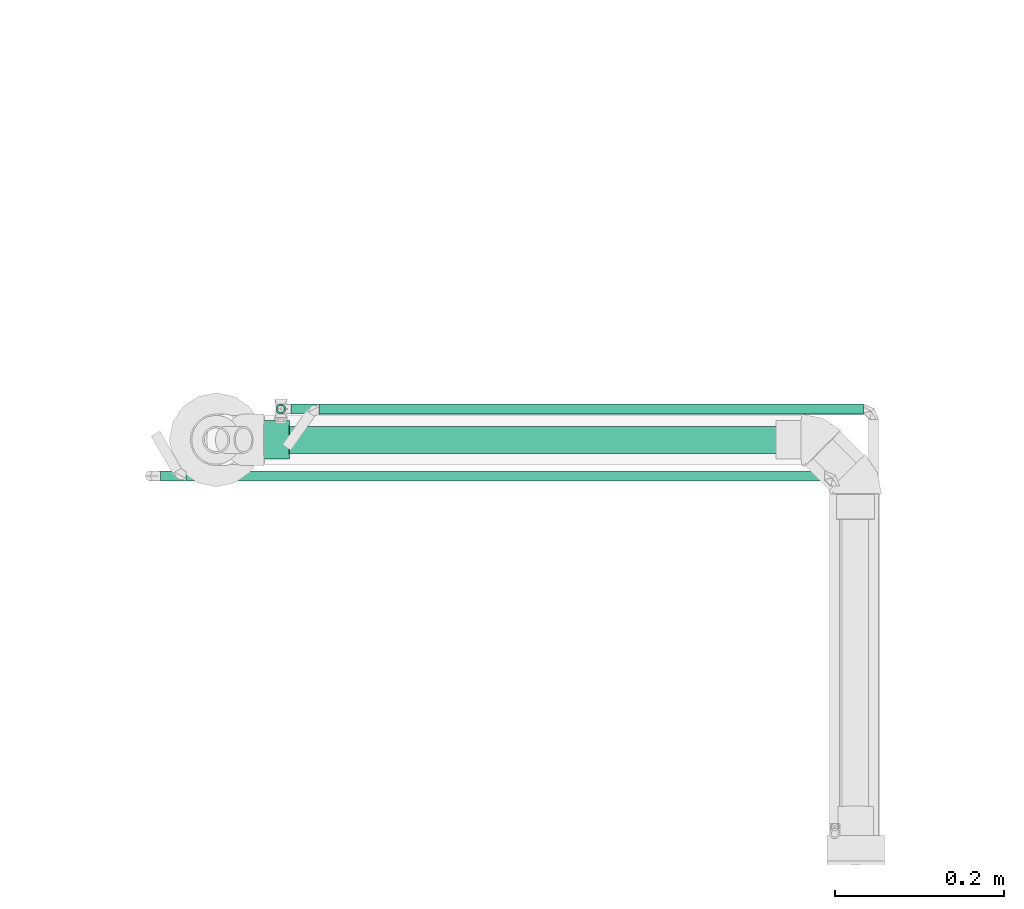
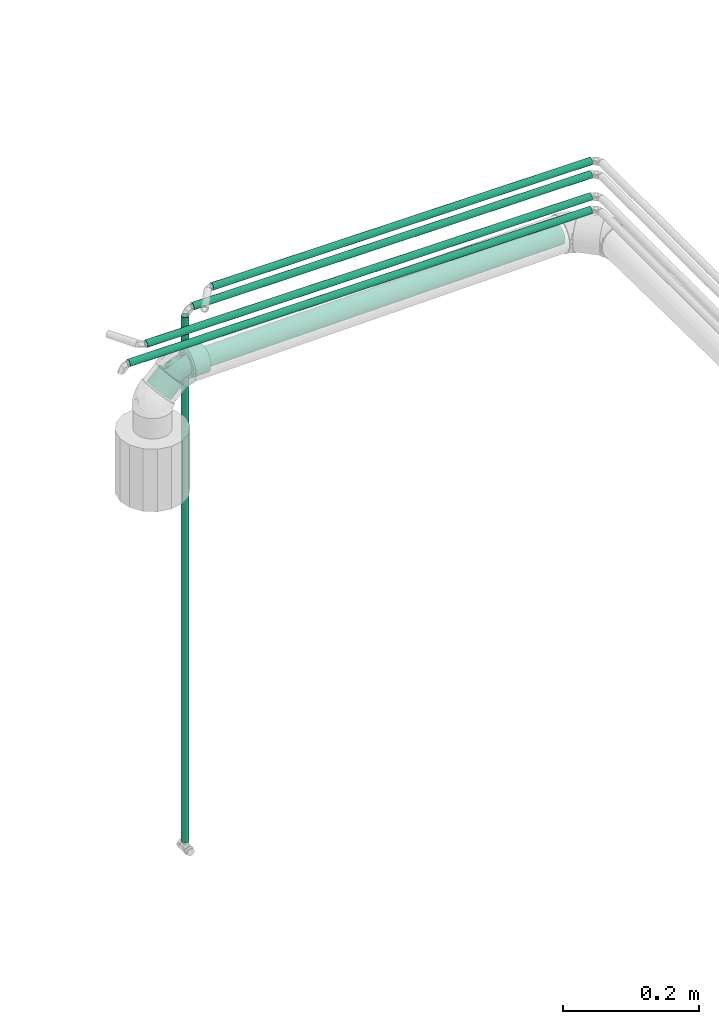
# One storey, part 49 of 108: 6 flow segments, 1 flow fitting.
"""IFC2X3 building model written with IfcOpenShell, lengths in millimetres."""

from ifc_helpers import new_model, entity, si_unit, converted_unit, derived_unit, direction, frame, origin_with_axes, origin_2d_with_axis, place, context, subcontext, project, spatial, hollow_circle, extrude, open_shell, surface_model, source, transform, mapped, type_object, element, save


model = new_model("IFC2X3")

# Units and contexts
model_context = context("Model", 3, precision=0.01, world=frame((0.0, 4.29681676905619e-09, 0.0)), true_north=direction((4.01073788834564e-13, 1.0)))
plan_context = context("Plan", 3, precision=0.01, world=frame((0.0, 4.29681676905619e-09, 0.0)), true_north=direction((4.01073788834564e-13, 1.0)))
body_context = subcontext(model_context, "Body", "Model", "MODEL_VIEW")
ifc_project = project(units=[converted_unit("PLANEANGLEUNIT", "DEGREE", entity("IfcPositiveLengthMeasure", 0.0174532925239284), si_unit("PLANEANGLEUNIT", "RADIAN"), dimensions=[0, 0, 0, 0, 0, 0, 0]), si_unit("AREAUNIT", "SQUARE_METRE"), si_unit("LENGTHUNIT", "METRE", prefix="MILLI"), si_unit("MASSUNIT", "GRAM", prefix="KILO"), si_unit("POWERUNIT", "WATT"), si_unit("PRESSUREUNIT", "PASCAL", prefix="KILO"), si_unit("FORCEUNIT", "NEWTON", prefix="KILO"), si_unit("ELECTRICVOLTAGEUNIT", "VOLT"), si_unit("ELECTRICCURRENTUNIT", "AMPERE"), si_unit("THERMODYNAMICTEMPERATUREUNIT", "DEGREE_CELSIUS"), si_unit("TIMEUNIT", "SECOND"), si_unit("VOLUMEUNIT", "CUBIC_METRE"), derived_unit("LINEARVELOCITYUNIT", [(si_unit("LENGTHUNIT", "METRE"), 1), (si_unit("TIMEUNIT", "SECOND"), -1)]), derived_unit("VOLUMETRICFLOWRATEUNIT", [(si_unit("VOLUMEUNIT", "CUBIC_METRE"), 1), (si_unit("TIMEUNIT", "SECOND"), -1)]), derived_unit("THERMALTRANSMITTANCEUNIT", [(si_unit("POWERUNIT", "WATT"), 1), (si_unit("THERMODYNAMICTEMPERATUREUNIT", "KELVIN"), -1), (si_unit("AREAUNIT", "SQUARE_METRE"), -1)]), derived_unit("SOUNDPRESSUREUNIT", [(si_unit("PRESSUREUNIT", "PASCAL"), 1)])], contexts=[model_context, plan_context])

# Site, building, storey
site_placement = place(None, frame((0.0, -4.29681676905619e-09, 0.0), z_axis=(0.0, 0.0, 1.0), x_axis=(1.0, 0.0, 0.0)))
site = spatial("IfcSite", under=ifc_project, at=site_placement, CompositionType="ELEMENT")
building_placement = place(site_placement, frame((0.0, 4.29681676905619e-09, 0.0), z_axis=(0.0, 0.0, 1.0), x_axis=(1.0, 0.0, 0.0)))
building = spatial("IfcBuilding", under=site, at=building_placement, Name="mc-building", CompositionType="ELEMENT")
storey_placement = place(building_placement, frame((0.0, 0.0, 210200.0), z_axis=(0.0, 0.0, 1.0), x_axis=(1.0, 0.0, 0.0)))
storey = spatial("IfcBuildingStorey", under=building, at=storey_placement, Name="Nivå F - 0,7 m", CompositionType="ELEMENT", Elevation=210200.0)

# Flow fitting
pipe_fitting_type = type_object("IfcPipeFittingType", Name="magi_sewer_bend_001", PredefinedType="BEND")
shared_shape_1 = source(origin_with_axes(), body_context, "Body", "SurfaceModel", [
    surface_model("IfcShellBasedSurfaceModel", [(-44.23786, -11.3, -19.57217), (-44.23786, 5.84931, -21.82992), (-44.23786, -5.84931, -21.82992), (-44.23786, -15.98061, -15.98061), (-44.23786, 22.6, 0.0), (-44.23786, -21.82992, -5.84931), (-44.23786, -19.57217, -11.3), (-44.23786, 21.82992, -5.84931), (-44.23786, 0.0, -22.6), (-44.23786, 11.3, -19.57217), (-44.23786, 15.98061, -15.98061), (-44.23786, 19.57217, -11.3), (-44.23786, -21.82992, 5.84931), (-44.23786, -22.6, 0.0), (-44.23786, -19.57217, 11.3), (-44.23786, -15.98061, 15.98061), (-44.23786, 0.0, 22.6), (-44.23786, -11.3, 19.57217), (-44.23786, -5.84931, 21.82992), (-44.23786, 15.98061, 15.98061), (-44.23786, 19.57217, 11.3), (-44.23786, 21.82992, 5.84931), (-44.23786, 5.84931, 21.82992), (-44.23786, 11.3, 19.57217), (-14.23786, 0.0, 22.6), (-14.23786, -5.84931, 21.82992), (-14.23786, -11.3, 19.57217), (-14.23786, -15.98061, 15.98061), (-14.23786, -19.57217, 11.3), (-14.23786, -21.82992, 5.84931), (-14.23786, 22.6, 0.0), (-14.23786, 21.82992, -5.84931), (-14.23786, 5.84931, 21.82992), (-14.23786, 15.98061, 15.98061), (-14.23786, 11.3, 19.57217), (-14.23786, 19.57217, 11.3), (-14.23786, 21.82992, 5.84931), (-14.23786, -11.3, -19.57217), (-14.23786, -22.6, 0.0), (-14.23786, -21.82992, -5.84931), (-14.23786, -15.98061, -15.98061), (-14.23786, -19.57217, -11.3), (-14.23786, -5.84931, -21.82992), (-14.23786, 15.98061, -15.98061), (-14.23786, 19.57217, -11.3), (-14.23786, 11.3, -19.57217), (-14.23786, 5.84931, -21.82992), (-14.23786, 0.0, -22.6), (16.62111, 46.44645, 5.84931), (18.19076, 44.82359, 11.3), (20.6877, 42.24201, 15.98061), (20.6877, 42.24201, -15.98061), (27.73124, 34.95971, 21.82992), (31.79783, 30.75527, 22.6), (23.94178, 38.87762, 19.57217), (16.08574, 46.99997, 0.0), (18.19076, 44.82359, -11.3), (16.62111, 46.44645, -5.84931), (27.73124, 34.95971, -21.82992), (23.94178, 38.87762, -19.57217), (35.86441, 26.55083, 21.82992), (39.65387, 22.63292, 19.57217), (42.90795, 19.26853, 15.98061), (42.90795, 19.26853, -15.98061), (45.40489, 16.68695, 11.3), (46.97454, 15.0641, 5.84931), (47.50991, 14.51057, 0.0), (35.86441, 26.55083, -21.82992), (39.65387, 22.63292, -19.57217), (31.79783, 30.75527, -22.6), (46.97454, 15.0641, -5.84931), (45.40489, 16.68695, -11.3), (25.94615, -6.34618, 0.0), (25.41077, -5.79266, 5.84931), (23.84113, -4.1698, 11.3), (14.30065, 5.69408, 21.82992), (18.09011, 1.77617, 19.57217), (21.34419, -1.58822, 15.98061), (21.34419, -1.58822, -15.98061), (25.41077, -5.79266, -5.84931), (23.84113, -4.1698, -11.3), (18.09011, 1.77617, -19.57217), (10.23406, 9.89852, -22.6), (14.30065, 5.69408, -21.82992), (-0.87606, 21.38526, -15.98061), (-3.373, 23.96684, -11.3), (6.16747, 14.10296, 21.82992), (-0.87606, 21.38526, 15.98061), (2.37802, 18.02087, 19.57217), (-3.373, 23.96684, 11.3), (-4.94265, 25.58969, 5.84931), (6.16747, 14.10296, -21.82992), (2.37802, 18.02087, -19.57217), (-5.47803, 26.14322, 0.0), (-4.94265, 25.58969, -5.84931), (10.23406, 9.89852, 22.6), (-14.23786, 0.0, -17.6), (-14.23786, -12.44508, -12.44508), (-14.23786, 4.55522, -17.00029), (-14.23786, 8.8, -15.24205), (-14.23786, 15.24205, -8.8), (-14.23786, 12.44508, -12.44508), (-14.23786, -17.00029, 4.55522), (-14.23786, -8.8, -15.24205), (-14.23786, -4.55522, -17.00029), (-14.23786, -15.24205, -8.8), (-14.23786, -17.00029, -4.55522), (-14.23786, -17.6, 0.0), (-14.23786, 17.00029, -4.55522), (-14.23786, -8.8, 15.24205), (-14.23786, 17.00029, 4.55522), (-14.23786, 17.6, 0.0), (-14.23786, 12.44508, 12.44508), (-14.23786, 15.24205, 8.8), (-14.23786, 4.55522, 17.00029), (-14.23786, 8.8, 15.24205), (-14.23786, -15.24205, 8.8), (-14.23786, -12.44508, 12.44508), (-14.23786, -4.55522, 17.00029), (-14.23786, 0.0, 17.6), (7.06716, 13.17277, -17.00029), (13.40096, 6.62427, -17.00029), (10.23406, 9.89852, -17.6), (-0.36259, 20.85438, -8.8), (4.11608, 16.22389, -15.24205), (1.58193, 18.84394, -12.44508), (-1.58497, 22.1182, -4.55522), (18.88619, 0.95309, -12.44508), (16.35204, 3.57315, -15.24205), (22.05309, -2.32116, 4.55522), (20.83072, -1.05734, -8.8), (22.05309, -2.32116, -4.55522), (22.47002, -2.75222, 0.0), (16.35204, 3.57315, 15.24205), (-1.58497, 22.1182, 4.55522), (-0.36259, 20.85438, 8.8), (1.58193, 18.84394, 12.44508), (4.11608, 16.22389, 15.24205), (7.06716, 13.17277, 17.00029), (18.88619, 0.95309, 12.44508), (20.83072, -1.05734, 8.8), (10.23406, 9.89852, 17.6), (13.40096, 6.62427, 17.00029), (-2.0019, 22.54926, 0.0), (-6.82773, -6.47022, 16.09377), (-3.68728, -9.96292, 13.59382), (1.80556, -4.46384, 15.88137), (-5.37111, -13.45892, 10.31538), (13.21769, -5.94004, 10.31538), (-5.00718, -1.70123, 17.36964), (-6.47451, 7.32255, 16.44842), (-1.60461, 3.96704, 17.53521), (-8.6354, 2.42874, 17.49127), (3.11032, 8.15055, 17.33099), (-2.97703, -15.25513, 6.13399), (4.43112, -10.95497, 9.84682), (9.40597, 0.09607, 16.09377), (-7.05915, 17.4522, 7.21016), (-7.43338, 14.76297, 11.09799), (-4.85871, 12.01211, 14.35213), (1.78197, -14.80412, 3.19487), (8.83787, -11.96522, 3.19487), (5.12572, -12.67223, 6.28359), (-4.3386, -15.67375, 0.0), (-4.69362, -16.43007, 3.20985), (14.60348, -8.67814, 3.19143), (12.74561, -8.89557, 6.13399), (-6.95086, 18.75136, 3.68688), (4.78186, 2.25828, 17.36964), (9.57685, -4.59778, 13.59382), (5.56066, -13.74751, 0.0), (0.64229, 10.47249, 16.41821), (14.01534, -8.24986, 0.0), (-7.63836, 18.88416, 0.0), (2.90431, -7.18027, 14.11298), (-5.00718, -1.70123, -17.36964), (9.01133, -11.87996, -3.19487), (1.96593, -14.74482, -3.19487), (5.12572, -12.67223, -6.28358), (4.78186, 2.25828, -17.36964), (-7.90214, 3.69618, -17.33099), (-4.92053, 15.77938, -11.09799), (9.57685, -4.59778, -13.59382), (-7.05915, 17.4522, -7.21016), (12.74561, -8.89557, -6.13399), (-8.0402, 18.31074, -3.68688), (-0.43699, 9.76463, -16.44842), (-4.4636, -16.39048, -3.19143), (-2.97703, -15.25513, -6.13399), (-7.74241, 7.081, -16.41821), (-5.37111, -13.45892, -10.31538), (4.43112, -10.95497, -9.84682), (-3.68728, -9.96292, -13.59382), (2.90431, -7.18027, -14.11298), (-6.82773, -6.47022, -16.09377), (1.80556, -4.46384, -15.88137), (9.40597, 0.09607, -16.09377), (-1.60461, 3.96704, -17.53521), (-4.85871, 12.0121, -14.35213), (14.79633, -8.54668, -3.20985), (4.51854, 7.74931, -17.49127), (13.21769, -5.94004, -10.31538)], [open_shell([[[0, 1, 2]], [[3, 4, 0]], [[4, 3, 5]], [[5, 3, 6]], [[4, 7, 0]], [[2, 1, 8]], [[0, 9, 1]], [[10, 7, 11]], [[7, 10, 9]], [[0, 7, 9]], [[12, 5, 13]], [[12, 14, 15]], [[12, 15, 16]], [[17, 18, 16]], [[17, 16, 15]], [[12, 16, 19]], [[4, 20, 21]], [[20, 4, 19]], [[19, 22, 23]], [[19, 4, 12]], [[16, 22, 19]], [[12, 4, 5]], [[24, 25, 26]], [[24, 26, 27]], [[27, 28, 29]], [[27, 29, 24]], [[30, 24, 31]], [[32, 33, 34]], [[33, 32, 30]], [[35, 30, 36]], [[30, 35, 33]], [[32, 24, 30]], [[24, 29, 31]], [[37, 38, 39]], [[40, 39, 41]], [[37, 31, 29]], [[37, 39, 40]], [[31, 37, 42]], [[31, 43, 44]], [[43, 31, 45]], [[42, 46, 45]], [[45, 31, 42]], [[47, 46, 42]], [[37, 29, 38]], [[31, 7, 30]], [[44, 11, 31]], [[9, 43, 45]], [[43, 10, 44]], [[31, 11, 7]], [[7, 4, 30]], [[8, 1, 46]], [[1, 9, 45]], [[10, 43, 9]], [[10, 11, 44]], [[46, 1, 45]], [[46, 47, 8]], [[2, 42, 37]], [[40, 0, 37]], [[6, 41, 39]], [[40, 41, 3]], [[5, 39, 38]], [[42, 2, 8]], [[37, 0, 2]], [[40, 3, 0]], [[41, 6, 3]], [[5, 6, 39]], [[38, 13, 5]], [[42, 8, 47]], [[29, 12, 38]], [[28, 14, 29]], [[17, 27, 26]], [[28, 27, 15]], [[18, 26, 25]], [[29, 14, 12]], [[12, 13, 38]], [[18, 24, 16]], [[18, 17, 26]], [[15, 27, 17]], [[15, 14, 28]], [[24, 18, 25]], [[22, 32, 34]], [[33, 23, 34]], [[20, 35, 36]], [[33, 35, 19]], [[21, 36, 30]], [[34, 23, 22]], [[22, 16, 32]], [[19, 23, 33]], [[35, 20, 19]], [[21, 20, 36]], [[30, 4, 21]], [[32, 16, 24]], [[48, 49, 50]], [[51, 48, 50]], [[52, 53, 50]], [[52, 50, 54]], [[51, 50, 53]], [[55, 56, 57]], [[55, 48, 56]], [[51, 58, 59]], [[56, 48, 51]], [[53, 58, 51]], [[53, 60, 58]], [[60, 61, 62]], [[63, 60, 62]], [[64, 65, 66]], [[64, 66, 62]], [[63, 62, 66]], [[67, 63, 68]], [[63, 67, 69]], [[63, 70, 71]], [[69, 58, 63]], [[66, 70, 63]], [[63, 58, 60]], [[72, 73, 74]], [[72, 74, 75]], [[76, 75, 74]], [[76, 74, 77]], [[72, 75, 78]], [[79, 78, 80]], [[79, 72, 78]], [[81, 82, 83]], [[82, 81, 78]], [[78, 84, 82]], [[78, 75, 85]], [[86, 87, 75]], [[87, 86, 88]], [[85, 87, 89]], [[75, 87, 85]], [[90, 85, 89]], [[91, 84, 92]], [[82, 84, 91]], [[85, 93, 94]], [[78, 85, 84]], [[90, 93, 85]], [[86, 75, 95]], [[91, 58, 82]], [[92, 59, 91]], [[56, 84, 85]], [[84, 51, 92]], [[91, 59, 58]], [[58, 69, 82]], [[55, 57, 94]], [[57, 56, 85]], [[51, 84, 56]], [[51, 59, 92]], [[94, 57, 85]], [[94, 93, 55]], [[48, 90, 89]], [[87, 49, 89]], [[54, 88, 86]], [[87, 88, 50]], [[52, 86, 95]], [[90, 48, 55]], [[89, 49, 48]], [[87, 50, 49]], [[88, 54, 50]], [[52, 54, 86]], [[95, 53, 52]], [[90, 55, 93]], [[75, 60, 95]], [[76, 61, 75]], [[64, 77, 74]], [[76, 77, 62]], [[65, 74, 73]], [[75, 61, 60]], [[60, 53, 95]], [[65, 72, 66]], [[65, 64, 74]], [[62, 77, 64]], [[62, 61, 76]], [[72, 65, 73]], [[70, 79, 80]], [[78, 71, 80]], [[68, 81, 83]], [[78, 81, 63]], [[67, 83, 82]], [[80, 71, 70]], [[70, 66, 79]], [[63, 71, 78]], [[81, 68, 63]], [[67, 68, 83]], [[82, 69, 67]], [[79, 66, 72]], [[96, 97, 98]], [[99, 98, 100]], [[100, 98, 97]], [[101, 99, 100]], [[102, 100, 97]], [[103, 97, 96]], [[96, 104, 103]], [[105, 102, 97]], [[102, 105, 106]], [[107, 102, 106]], [[108, 100, 109]], [[110, 111, 112]], [[113, 110, 112]], [[114, 115, 112]], [[111, 114, 112]], [[109, 114, 111]], [[116, 117, 102]], [[109, 102, 117]], [[118, 119, 109]], [[109, 100, 102]], [[109, 119, 114]], [[111, 108, 109]], [[120, 121, 122]], [[123, 120, 124]], [[120, 123, 121]], [[123, 124, 125]], [[126, 121, 123]], [[121, 127, 128]], [[121, 126, 127]], [[127, 129, 130]], [[129, 131, 130]], [[131, 129, 132]], [[126, 133, 127]], [[126, 134, 135]], [[126, 135, 136]], [[136, 137, 138]], [[126, 136, 138]], [[138, 133, 126]], [[129, 139, 140]], [[139, 129, 133]], [[133, 141, 142]], [[129, 127, 133]], [[138, 141, 133]], [[134, 126, 143]], [[144, 145, 146]], [[116, 147, 117]], [[109, 117, 145]], [[140, 139, 148]], [[119, 118, 149]], [[118, 109, 144]], [[115, 114, 150]], [[151, 152, 149]], [[119, 152, 114]], [[138, 153, 141]], [[154, 155, 147]], [[133, 142, 156]], [[157, 113, 158]], [[159, 112, 115]], [[160, 161, 162]], [[163, 160, 164]], [[165, 166, 161]], [[157, 167, 110]], [[116, 102, 154]], [[111, 110, 167]], [[110, 113, 157]], [[147, 145, 117]], [[150, 159, 115]], [[154, 162, 155]], [[107, 163, 164]], [[137, 136, 159]], [[141, 153, 168]], [[139, 133, 169]], [[135, 134, 157]], [[168, 142, 141]], [[160, 163, 170]], [[166, 140, 148]], [[171, 153, 138]], [[169, 133, 156]], [[154, 147, 116]], [[172, 165, 161]], [[129, 165, 132]], [[152, 150, 114]], [[167, 157, 134]], [[173, 167, 143]], [[148, 169, 155]], [[145, 174, 146]], [[146, 168, 149]], [[138, 137, 171]], [[146, 156, 168]], [[157, 158, 135]], [[151, 149, 168]], [[136, 135, 158]], [[159, 150, 171]], [[144, 149, 118]], [[113, 112, 158]], [[129, 140, 166]], [[145, 147, 155]], [[174, 155, 169]], [[169, 148, 139]], [[166, 148, 155]], [[112, 159, 158]], [[136, 158, 159]], [[159, 171, 137]], [[151, 171, 150]], [[145, 144, 109]], [[149, 144, 146]], [[168, 156, 142]], [[169, 156, 146]], [[171, 151, 153]], [[153, 151, 168]], [[149, 152, 119]], [[150, 152, 151]], [[160, 162, 154]], [[166, 155, 162]], [[160, 154, 164]], [[161, 160, 170]], [[172, 161, 170]], [[166, 162, 161]], [[154, 102, 164]], [[107, 164, 102]], [[132, 165, 172]], [[129, 166, 165]], [[155, 174, 145]], [[169, 146, 174]], [[143, 167, 134]], [[167, 173, 111]], [[104, 96, 175]], [[176, 177, 178]], [[122, 121, 179]], [[180, 96, 98]], [[100, 181, 101]], [[128, 127, 182]], [[183, 181, 100]], [[130, 131, 184]], [[108, 185, 183]], [[124, 120, 186]], [[187, 188, 177]], [[99, 189, 98]], [[163, 187, 177]], [[188, 190, 191]], [[106, 187, 107]], [[190, 188, 105]], [[97, 103, 192]], [[193, 191, 192]], [[106, 105, 188]], [[97, 190, 105]], [[194, 103, 104]], [[190, 192, 191]], [[195, 175, 179]], [[196, 179, 121]], [[111, 173, 185]], [[176, 172, 170]], [[143, 126, 185]], [[197, 179, 175]], [[125, 124, 198]], [[183, 100, 108]], [[123, 181, 183]], [[194, 192, 103]], [[186, 198, 124]], [[180, 175, 96]], [[198, 186, 189]], [[101, 198, 99]], [[172, 176, 199]], [[122, 200, 120]], [[196, 121, 128]], [[184, 178, 191]], [[201, 182, 127]], [[182, 195, 196]], [[184, 191, 201]], [[195, 194, 175]], [[132, 172, 199]], [[123, 125, 181]], [[200, 186, 120]], [[201, 127, 130]], [[182, 193, 195]], [[200, 179, 197]], [[189, 180, 98]], [[126, 183, 185]], [[192, 190, 97]], [[126, 123, 183]], [[184, 201, 130]], [[182, 201, 191]], [[125, 198, 181]], [[101, 181, 198]], [[198, 189, 99]], [[197, 189, 186]], [[175, 194, 104]], [[192, 194, 195]], [[182, 196, 128]], [[179, 196, 195]], [[189, 197, 180]], [[180, 197, 175]], [[179, 200, 122]], [[186, 200, 197]], [[176, 178, 184]], [[188, 191, 178]], [[176, 184, 199]], [[177, 176, 170]], [[163, 177, 170]], [[188, 178, 177]], [[184, 131, 199]], [[132, 199, 131]], [[107, 187, 163]], [[106, 188, 187]], [[191, 193, 182]], [[192, 195, 193]], [[111, 185, 108]], [[185, 173, 143]]])]),
])
flow_fitting_placement = place(storey_placement, frame((330406.77549, 462127.61957, 215.14585999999), z_axis=(0.0, 1.0, 0.0), x_axis=(0.707106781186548, 0.0, 0.707106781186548)))
element("IfcFlowFitting", 1, at=flow_fitting_placement, inside=storey, type_object=pipe_fitting_type, Name="magi_sewer_bend_001", context=body_context, shape_type="MappedRepresentation", body=[
    mapped(shared_shape_1, transform((0.0, 0.0, 0.0), scale=1.0)),
])

# Flow segments
pipe_segment_type_1 = type_object("IfcPipeSegmentType", Name="Kobberrør", PredefinedType="RIGIDSEGMENT")
shared_shape_2 = source(origin_with_axes(), body_context, "Body", "SweptSolid", [
    extrude(hollow_circle(Radius=6.0, WallThickness=2.0, at=origin_2d_with_axis()), frame((0.0, 0.0, 0.0), z_axis=(1.0, 0.0, 0.0), x_axis=(0.0, 1.0, 0.0)), (0.0, 0.0, 1.0), 677.5),
])
flow_segment_1_placement = place(storey_placement, frame((331130.38085, 462164.12379, 285.54501999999), z_axis=(0.0, 0.0, 1.0), x_axis=(-1.0, 0.0, 0.0)))
element("IfcFlowSegment", 2, at=flow_segment_1_placement, inside=storey, type_object=pipe_segment_type_1, Name="Kobberrør", context=body_context, shape_type="MappedRepresentation", body=[
    mapped(shared_shape_2, transform((0.0, 0.0, 0.0), scale=1.0)),
])
shared_shape_3 = source(origin_with_axes(), body_context, "Body", "SweptSolid", [
    extrude(hollow_circle(Radius=6.0, WallThickness=2.0, at=origin_2d_with_axis()), frame((0.0, 0.0, 0.0), z_axis=(1.0, 0.0, 0.0), x_axis=(0.0, 1.0, 0.0)), (0.0, 0.0, 1.0), 944.3),
])
flow_segment_2_placement = place(storey_placement, frame((330440.83415, 462164.12379, 273.54501999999), z_axis=(-1.0, 0.0, 0.0), x_axis=(0.0, 0.0, -1.0)))
element("IfcFlowSegment", 3, at=flow_segment_2_placement, inside=storey, type_object=pipe_segment_type_1, Name="Kobberrør", context=body_context, shape_type="MappedRepresentation", body=[
    mapped(shared_shape_3, transform((0.0, 0.0, 0.0), scale=1.0)),
])
shared_shape_4 = source(origin_with_axes(), body_context, "Body", "SweptSolid", [
    extrude(hollow_circle(Radius=6.0, WallThickness=2.0, at=origin_2d_with_axis()), frame((0.0, 0.0, 0.0), z_axis=(1.0, 0.0, 0.0), x_axis=(0.0, 1.0, 0.0)), (0.0, 0.0, 1.0), 786.0),
])
flow_segment_3_placement = place(storey_placement, frame((331084.4804, 462084.97679, 285.54501999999), z_axis=(0.0, 0.0, 1.0), x_axis=(-1.0, 0.0, 0.0)))
element("IfcFlowSegment", 4, at=flow_segment_3_placement, inside=storey, type_object=pipe_segment_type_1, Name="Kobberrør", context=body_context, shape_type="MappedRepresentation", body=[
    mapped(shared_shape_4, transform((0.0, 0.0, 0.0), scale=1.0)),
])
pipe_segment_type_2 = type_object("IfcPipeSegmentType", Name="PP avløpsrør", PredefinedType="RIGIDSEGMENT")
shared_shape_5 = source(origin_with_axes(), body_context, "Body", "SweptSolid", [
    extrude(hollow_circle(Radius=16.0, WallThickness=2.0, at=origin_2d_with_axis()), frame((0.0, 0.0, 0.0), z_axis=(1.0, 0.0, 0.0), x_axis=(0.0, 1.0, 0.0)), (0.0, 0.0, 1.0), 636.2),
])
flow_segment_4_placement = place(storey_placement, frame((330421.01137, 462127.61957, 215.383130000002), z_axis=(-0.0166640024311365, 0.0, 0.999861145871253), x_axis=(0.999861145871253, 0.0, 0.0166640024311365)))
element("IfcFlowSegment", 5, at=flow_segment_4_placement, inside=storey, type_object=pipe_segment_type_2, Name="PP avløpsrør", context=body_context, shape_type="MappedRepresentation", body=[
    mapped(shared_shape_5, transform((0.0, 0.0, 0.0), scale=1.0)),
])
shared_shape_6 = source(origin_with_axes(), body_context, "Body", "SweptSolid", [
    extrude(hollow_circle(Radius=6.0, WallThickness=2.0, at=origin_2d_with_axis()), frame((0.0, 0.0, 0.0), z_axis=(1.0, 0.0, 0.0), x_axis=(0.0, 1.0, 0.0)), (0.0, 0.0, 1.0), 756.2),
])
flow_segment_5_placement = place(storey_placement, frame((330328.28725, 462084.9926, 309.810120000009), z_axis=(0.0, 0.0, 1.0), x_axis=(1.0, 0.0, 0.0)))
element("IfcFlowSegment", 6, at=flow_segment_5_placement, inside=storey, type_object=pipe_segment_type_1, Name="Kobberrør", context=body_context, shape_type="MappedRepresentation", body=[
    mapped(shared_shape_6, transform((0.0, 0.0, 0.0), scale=1.0)),
])
shared_shape_7 = source(origin_with_axes(), body_context, "Body", "SweptSolid", [
    extrude(hollow_circle(Radius=6.0, WallThickness=2.0, at=origin_2d_with_axis()), frame((0.0, 0.0, 0.0), z_axis=(1.0, 0.0, 0.0), x_axis=(0.0, 1.0, 0.0)), (0.0, 0.0, 1.0), 644.7),
])
flow_segment_6_placement = place(storey_placement, frame((330485.70634, 462163.79632, 309.810120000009), z_axis=(0.0, 0.0, 1.0), x_axis=(1.0, 0.0, 0.0)))
element("IfcFlowSegment", 7, at=flow_segment_6_placement, inside=storey, type_object=pipe_segment_type_1, Name="Kobberrør", context=body_context, shape_type="MappedRepresentation", body=[
    mapped(shared_shape_7, transform((0.0, 0.0, 0.0), scale=1.0)),
])

save(model, "model.ifc")
